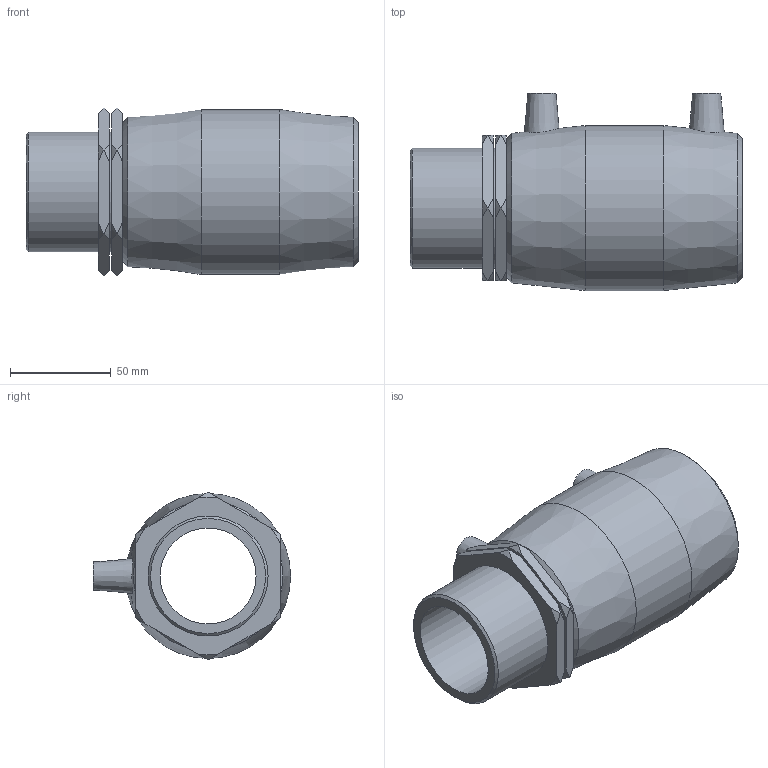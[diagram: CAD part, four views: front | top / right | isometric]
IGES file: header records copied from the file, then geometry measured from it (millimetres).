
Global section: file name: 497104063020.ipt; native system: Autodesk Inventor 2015; preprocessor: unknown; author: KIM; date: 20171106.094431; units: millimetre
Bounding box: 165 x 98 x 83.46 mm (x, y, z)
Volume: 359680.4 mm3; surface area: 83415.9 mm2
Topology: 1 solids, 2 shells, 75 faces, 186 edges, 126 vertices
Faces by surface type: cone 31, plane 29, revolution 8, cylinder 7
Full cylindrical faces by diameter (mm): 4 x2, 59.614 x2, 63 x2, 82 x1
